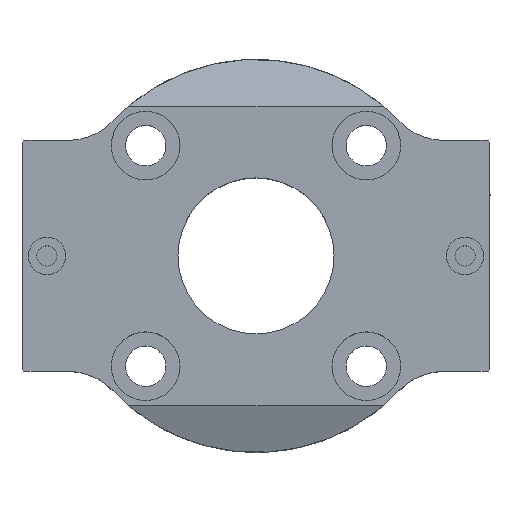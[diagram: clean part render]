
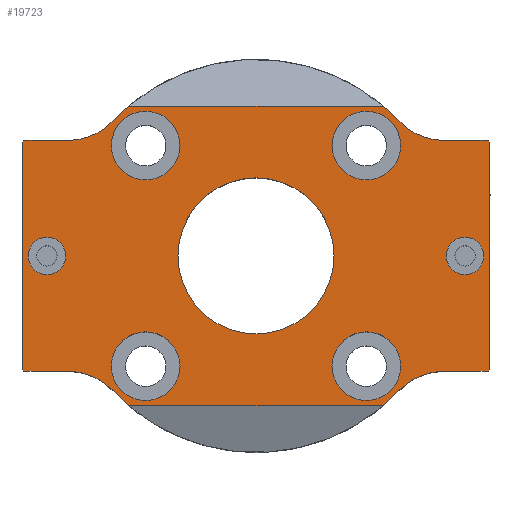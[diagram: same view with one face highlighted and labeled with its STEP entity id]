
A CAD part, top view. The second image highlights one B-rep face of the part: STEP entity #19723.
In plain terms, the highlighted planar face has unit normal (0, 0, 1).
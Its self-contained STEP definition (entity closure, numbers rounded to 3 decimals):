
#73=CARTESIAN_POINT('',(-20.402,24.,0.0));
#74=VERTEX_POINT('',#73);
#75=CARTESIAN_POINT('',(20.402,24.,0.0));
#76=VERTEX_POINT('',#75);
#84=CARTESIAN_POINT('',(20.402,24.,0.0));
#85=DIRECTION('',(-1.0,0.0,0.0));
#86=VECTOR('',#85,40.804);
#87=LINE('',#84,#86);
#88=EDGE_CURVE('',#76,#74,#87,.T.);
#98=CARTESIAN_POINT('',(20.402,-24.,0.0));
#99=VERTEX_POINT('',#98);
#100=CARTESIAN_POINT('',(-20.402,-24.,0.0));
#101=VERTEX_POINT('',#100);
#109=CARTESIAN_POINT('',(-20.402,-24.,0.));
#110=DIRECTION('',(1.0,0.0,0.0));
#111=VECTOR('',#110,40.804);
#112=LINE('',#109,#111);
#113=EDGE_CURVE('',#101,#99,#112,.T.);
#124=CARTESIAN_POINT('',(22.897,21.633,0.0));
#125=VERTEX_POINT('',#124);
#126=CARTESIAN_POINT('',(0.0,0.0,0.0));
#127=DIRECTION('',(0.0,0.0,1.));
#128=DIRECTION('',(0.809,0.587,0.0));
#129=AXIS2_PLACEMENT_3D('',#126,#127,#128);
#130=CIRCLE('',#129,31.5);
#131=EDGE_CURVE('',#125,#76,#130,.T.);
#150=CARTESIAN_POINT('',(-22.897,21.633,0.0));
#151=VERTEX_POINT('',#150);
#158=CARTESIAN_POINT('',(0.0,0.0,0.0));
#159=DIRECTION('',(0.0,0.0,1.));
#160=DIRECTION('',(0.809,0.587,0.0));
#161=AXIS2_PLACEMENT_3D('',#158,#159,#160);
#162=CIRCLE('',#161,31.5);
#163=EDGE_CURVE('',#74,#151,#162,.T.);
#174=CARTESIAN_POINT('',(-22.897,-21.633,0.0));
#175=VERTEX_POINT('',#174);
#176=CARTESIAN_POINT('',(0.0,0.0,0.0));
#177=DIRECTION('',(0.0,0.0,1.));
#178=DIRECTION('',(-0.809,-0.587,0.0));
#179=AXIS2_PLACEMENT_3D('',#176,#177,#178);
#180=CIRCLE('',#179,31.5);
#181=EDGE_CURVE('',#175,#101,#180,.T.);
#200=CARTESIAN_POINT('',(22.897,-21.633,0.0));
#201=VERTEX_POINT('',#200);
#208=CARTESIAN_POINT('',(0.0,0.0,0.0));
#209=DIRECTION('',(0.0,0.0,1.));
#210=DIRECTION('',(-0.809,-0.587,0.0));
#211=AXIS2_PLACEMENT_3D('',#208,#209,#210);
#212=CIRCLE('',#211,31.5);
#213=EDGE_CURVE('',#99,#201,#212,.T.);
#18226=CARTESIAN_POINT('',(37.5,18.2,0.0));
#18227=VERTEX_POINT('',#18226);
#18236=CARTESIAN_POINT('',(37.5,-18.2,0.0));
#18237=VERTEX_POINT('',#18236);
#18238=CARTESIAN_POINT('',(37.5,-18.2,0.0));
#18239=DIRECTION('',(0.0,1.0,0.0));
#18240=VECTOR('',#18239,36.4);
#18241=LINE('',#18238,#18240);
#18242=EDGE_CURVE('',#18237,#18227,#18241,.T.);
#18779=CARTESIAN_POINT('',(-37.5,18.2,0.0));
#18780=VERTEX_POINT('',#18779);
#18781=CARTESIAN_POINT('',(-37.2,18.5,0.0));
#18782=VERTEX_POINT('',#18781);
#18783=CARTESIAN_POINT('',(-37.5,18.2,0.0));
#18784=DIRECTION('',(0.707,0.707,0.0));
#18785=VECTOR('',#18784,0.424);
#18786=LINE('',#18783,#18785);
#18787=EDGE_CURVE('',#18780,#18782,#18786,.T.);
#19034=CARTESIAN_POINT('',(37.2,18.5,0.0));
#19035=VERTEX_POINT('',#19034);
#19036=CARTESIAN_POINT('',(37.2,18.5,0.0));
#19037=DIRECTION('',(0.707,-0.707,0.0));
#19038=VECTOR('',#19037,0.424);
#19039=LINE('',#19036,#19038);
#19040=EDGE_CURVE('',#19035,#18227,#19039,.T.);
#19061=CARTESIAN_POINT('',(30.166,18.5,0.0));
#19062=VERTEX_POINT('',#19061);
#19069=CARTESIAN_POINT('',(37.2,18.5,0.0));
#19070=DIRECTION('',(-1.0,0.0,0.0));
#19071=VECTOR('',#19070,7.034);
#19072=LINE('',#19069,#19071);
#19073=EDGE_CURVE('',#19035,#19062,#19072,.T.);
#19085=CARTESIAN_POINT('',(30.166,28.5,0.0));
#19086=DIRECTION('',(0.0,0.0,1.0));
#19087=DIRECTION('',(-0.396,-0.918,0.0));
#19088=AXIS2_PLACEMENT_3D('',#19085,#19086,#19087);
#19089=CIRCLE('',#19088,10.0);
#19090=EDGE_CURVE('',#125,#19062,#19089,.T.);
#19102=CARTESIAN_POINT('',(-30.166,18.5,0.0));
#19103=VERTEX_POINT('',#19102);
#19110=CARTESIAN_POINT('',(-30.166,28.5,0.0));
#19111=DIRECTION('',(0.0,0.0,1.));
#19112=DIRECTION('',(0.396,-0.918,0.0));
#19113=AXIS2_PLACEMENT_3D('',#19110,#19111,#19112);
#19114=CIRCLE('',#19113,10.);
#19115=EDGE_CURVE('',#19103,#151,#19114,.T.);
#19129=CARTESIAN_POINT('',(-30.166,18.5,0.0));
#19130=DIRECTION('',(-1.0,0.0,0.0));
#19131=VECTOR('',#19130,7.034);
#19132=LINE('',#19129,#19131);
#19133=EDGE_CURVE('',#19103,#18782,#19132,.T.);
#19144=CARTESIAN_POINT('',(-37.2,-18.5,0.0));
#19145=VERTEX_POINT('',#19144);
#19146=CARTESIAN_POINT('',(-37.5,-18.2,0.0));
#19147=VERTEX_POINT('',#19146);
#19148=CARTESIAN_POINT('',(-37.2,-18.5,0.0));
#19149=DIRECTION('',(-0.707,0.707,0.0));
#19150=VECTOR('',#19149,0.424);
#19151=LINE('',#19148,#19150);
#19152=EDGE_CURVE('',#19145,#19147,#19151,.T.);
#19399=CARTESIAN_POINT('',(37.2,-18.5,0.0));
#19400=VERTEX_POINT('',#19399);
#19401=CARTESIAN_POINT('',(37.5,-18.2,0.0));
#19402=DIRECTION('',(-0.707,-0.707,0.0));
#19403=VECTOR('',#19402,0.424);
#19404=LINE('',#19401,#19403);
#19405=EDGE_CURVE('',#18237,#19400,#19404,.T.);
#19588=CARTESIAN_POINT('',(0.,0.,0.0));
#19589=DIRECTION('',(0.0,0.0,1.0));
#19590=DIRECTION('',(1.0,0.0,0.0));
#19591=AXIS2_PLACEMENT_3D('',#19588,#19589,#19590);
#19592=PLANE('',#19591);
#19593=ORIENTED_EDGE('',*,*,#88,.T.);
#19594=ORIENTED_EDGE('',*,*,#163,.T.);
#19595=ORIENTED_EDGE('',*,*,#19115,.F.);
#19596=ORIENTED_EDGE('',*,*,#19133,.T.);
#19597=ORIENTED_EDGE('',*,*,#18787,.F.);
#19598=CARTESIAN_POINT('',(-37.5,18.2,0.0));
#19599=DIRECTION('',(0.0,-1.0,0.0));
#19600=VECTOR('',#19599,36.4);
#19601=LINE('',#19598,#19600);
#19602=EDGE_CURVE('',#18780,#19147,#19601,.T.);
#19603=ORIENTED_EDGE('',*,*,#19602,.T.);
#19604=ORIENTED_EDGE('',*,*,#19152,.F.);
#19605=CARTESIAN_POINT('',(-30.166,-18.5,0.0));
#19606=VERTEX_POINT('',#19605);
#19607=CARTESIAN_POINT('',(-37.2,-18.5,0.0));
#19608=DIRECTION('',(1.0,0.0,0.0));
#19609=VECTOR('',#19608,7.034);
#19610=LINE('',#19607,#19609);
#19611=EDGE_CURVE('',#19145,#19606,#19610,.T.);
#19612=ORIENTED_EDGE('',*,*,#19611,.T.);
#19613=CARTESIAN_POINT('',(-30.166,-28.5,0.0));
#19614=DIRECTION('',(0.0,0.0,1.0));
#19615=DIRECTION('',(0.396,0.918,0.0));
#19616=AXIS2_PLACEMENT_3D('',#19613,#19614,#19615);
#19617=CIRCLE('',#19616,10.0);
#19618=EDGE_CURVE('',#175,#19606,#19617,.T.);
#19619=ORIENTED_EDGE('',*,*,#19618,.F.);
#19620=ORIENTED_EDGE('',*,*,#181,.T.);
#19621=ORIENTED_EDGE('',*,*,#113,.T.);
#19622=ORIENTED_EDGE('',*,*,#213,.T.);
#19623=CARTESIAN_POINT('',(30.166,-18.5,0.0));
#19624=VERTEX_POINT('',#19623);
#19625=CARTESIAN_POINT('',(30.166,-28.5,0.0));
#19626=DIRECTION('',(0.0,0.0,1.));
#19627=DIRECTION('',(-0.396,0.918,0.0));
#19628=AXIS2_PLACEMENT_3D('',#19625,#19626,#19627);
#19629=CIRCLE('',#19628,10.);
#19630=EDGE_CURVE('',#19624,#201,#19629,.T.);
#19631=ORIENTED_EDGE('',*,*,#19630,.F.);
#19632=CARTESIAN_POINT('',(30.166,-18.5,0.0));
#19633=DIRECTION('',(1.0,0.0,0.0));
#19634=VECTOR('',#19633,7.034);
#19635=LINE('',#19632,#19634);
#19636=EDGE_CURVE('',#19624,#19400,#19635,.T.);
#19637=ORIENTED_EDGE('',*,*,#19636,.T.);
#19638=ORIENTED_EDGE('',*,*,#19405,.F.);
#19639=ORIENTED_EDGE('',*,*,#18242,.T.);
#19640=ORIENTED_EDGE('',*,*,#19040,.F.);
#19641=ORIENTED_EDGE('',*,*,#19073,.T.);
#19642=ORIENTED_EDGE('',*,*,#19090,.F.);
#19643=ORIENTED_EDGE('',*,*,#131,.T.);
#19644=EDGE_LOOP('',(#19593,#19594,#19595,#19596,#19597,#19603,#19604,#19612,#19619,#19620,#19621,#19622,#19631,#19637,#19638,#19639,#19640,#19641,#19642,#19643));
#19645=FACE_OUTER_BOUND('',#19644,.T.);
#19646=CARTESIAN_POINT('',(12.505,0.,0.0));
#19647=VERTEX_POINT('',#19646);
#19648=CARTESIAN_POINT('',(0.0,0.0,0.0));
#19649=DIRECTION('',(0.0,0.0,-1.0));
#19650=DIRECTION('',(-1.0,0.0,0.0));
#19651=AXIS2_PLACEMENT_3D('',#19648,#19649,#19650);
#19652=CIRCLE('',#19651,12.505);
#19653=EDGE_CURVE('',#19647,#19647,#19652,.T.);
#19654=ORIENTED_EDGE('',*,*,#19653,.T.);
#19655=EDGE_LOOP('',(#19654));
#19656=FACE_BOUND('',#19655,.T.);
#19657=CARTESIAN_POINT('',(-30.5,0.0,0.0));
#19658=VERTEX_POINT('',#19657);
#19659=CARTESIAN_POINT('',(-33.5,0.0,0.0));
#19660=DIRECTION('',(0.0,0.0,-1.0));
#19661=DIRECTION('',(1.0,0.0,0.0));
#19662=AXIS2_PLACEMENT_3D('',#19659,#19660,#19661);
#19663=CIRCLE('',#19662,3.);
#19664=EDGE_CURVE('',#19658,#19658,#19663,.T.);
#19665=ORIENTED_EDGE('',*,*,#19664,.T.);
#19666=EDGE_LOOP('',(#19665));
#19667=FACE_BOUND('',#19666,.T.);
#19668=CARTESIAN_POINT('',(36.5,0.0,0.0));
#19669=VERTEX_POINT('',#19668);
#19670=CARTESIAN_POINT('',(33.5,0.0,0.0));
#19671=DIRECTION('',(0.0,0.0,-1.0));
#19672=DIRECTION('',(1.0,0.0,0.0));
#19673=AXIS2_PLACEMENT_3D('',#19670,#19671,#19672);
#19674=CIRCLE('',#19673,3.);
#19675=EDGE_CURVE('',#19669,#19669,#19674,.T.);
#19676=ORIENTED_EDGE('',*,*,#19675,.T.);
#19677=EDGE_LOOP('',(#19676));
#19678=FACE_BOUND('',#19677,.T.);
#19679=CARTESIAN_POINT('',(-12.178,17.678,0.0));
#19680=VERTEX_POINT('',#19679);
#19681=CARTESIAN_POINT('',(-17.678,17.678,0.0));
#19682=DIRECTION('',(0.0,0.0,-1.0));
#19683=DIRECTION('',(1.0,0.0,0.0));
#19684=AXIS2_PLACEMENT_3D('',#19681,#19682,#19683);
#19685=CIRCLE('',#19684,5.5);
#19686=EDGE_CURVE('',#19680,#19680,#19685,.T.);
#19687=ORIENTED_EDGE('',*,*,#19686,.T.);
#19688=EDGE_LOOP('',(#19687));
#19689=FACE_BOUND('',#19688,.T.);
#19690=CARTESIAN_POINT('',(23.178,17.678,0.0));
#19691=VERTEX_POINT('',#19690);
#19692=CARTESIAN_POINT('',(17.678,17.678,0.0));
#19693=DIRECTION('',(0.0,0.0,-1.0));
#19694=DIRECTION('',(1.0,0.0,0.0));
#19695=AXIS2_PLACEMENT_3D('',#19692,#19693,#19694);
#19696=CIRCLE('',#19695,5.5);
#19697=EDGE_CURVE('',#19691,#19691,#19696,.T.);
#19698=ORIENTED_EDGE('',*,*,#19697,.T.);
#19699=EDGE_LOOP('',(#19698));
#19700=FACE_BOUND('',#19699,.T.);
#19701=CARTESIAN_POINT('',(23.178,-17.678,0.0));
#19702=VERTEX_POINT('',#19701);
#19703=CARTESIAN_POINT('',(17.678,-17.678,0.0));
#19704=DIRECTION('',(0.0,0.0,-1.0));
#19705=DIRECTION('',(1.0,0.0,0.0));
#19706=AXIS2_PLACEMENT_3D('',#19703,#19704,#19705);
#19707=CIRCLE('',#19706,5.5);
#19708=EDGE_CURVE('',#19702,#19702,#19707,.T.);
#19709=ORIENTED_EDGE('',*,*,#19708,.T.);
#19710=EDGE_LOOP('',(#19709));
#19711=FACE_BOUND('',#19710,.T.);
#19712=CARTESIAN_POINT('',(-12.178,-17.678,0.0));
#19713=VERTEX_POINT('',#19712);
#19714=CARTESIAN_POINT('',(-17.678,-17.678,0.0));
#19715=DIRECTION('',(0.0,0.0,-1.0));
#19716=DIRECTION('',(1.0,0.0,0.0));
#19717=AXIS2_PLACEMENT_3D('',#19714,#19715,#19716);
#19718=CIRCLE('',#19717,5.5);
#19719=EDGE_CURVE('',#19713,#19713,#19718,.T.);
#19720=ORIENTED_EDGE('',*,*,#19719,.T.);
#19721=EDGE_LOOP('',(#19720));
#19722=FACE_BOUND('',#19721,.T.);
#19723=ADVANCED_FACE('',(#19645,#19656,#19667,#19678,#19689,#19700,#19711,#19722),#19592,.T.);
